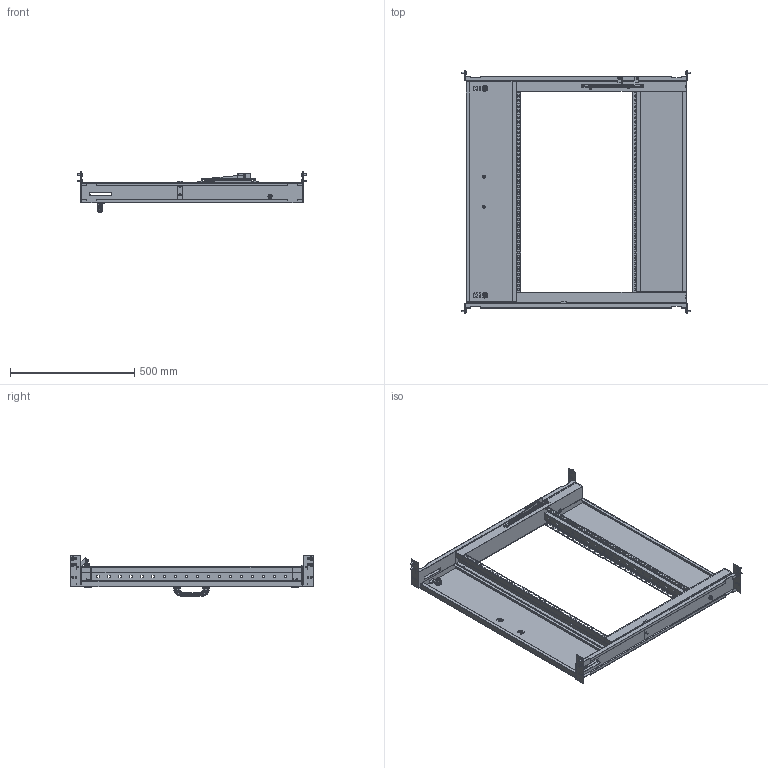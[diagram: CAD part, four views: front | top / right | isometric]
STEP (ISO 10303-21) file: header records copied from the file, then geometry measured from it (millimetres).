
FILE_DESCRIPTION(('Open CASCADE Model'),'2;1');
FILE_NAME('Open CASCADE Shape Model','2025-03-24T10:15:52',('Author'),( 'Open CASCADE'),'Open CASCADE STEP processor 7.8','Open CASCADE 7.8' ,'Unknown');
FILE_SCHEMA(('AUTOMOTIVE_DESIGN { 1 0 10303 214 1 1 1 1 }'));
Length unit declared in the file: millimetre
Products named in the file (35): Compound1; Compound2; Solid1; Solid2; Compound3; Solid3; Solid4; Solid5; Solid6; Solid7; Solid8; Solid9; Solid10; Solid11; Solid12; Solid13; Solid14; Solid15; Solid16; Solid17; Compound4; Solid18; Solid19; Solid20; Solid21; Compound5; Solid22; Solid23; Solid24; Solid25; Solid26; Solid27; Solid28; Solid29; Solid30
Assembly tree (53 placements, depth 3):
  Compound1
    Compound2
      Solid1
      Solid2
    Compound3
      Solid3
      Solid2
    Solid4  x2
    Solid5  x2
    Solid6
    Solid7
    Solid8
    Solid9
    Solid10
    Solid11  x2
    Solid12  x4
    Solid13  x8
    Solid14
    Solid15
    Solid16  x2
    Solid17  x2
    Compound4
      Solid18
      Solid19
    Solid20
    Solid21
    Compound5
      Solid22
      Solid23
      Solid24  x2
      Solid25
      Solid26  x2
      Solid27
      Solid28  x2
      Solid29
      Solid30
Bounding box: 926 x 981.5 x 165 mm (x, y, z)
Volume: 2161821.5 mm3; surface area: 2680026.1 mm2
Topology: 51 solids, 69 shells, 4709 faces, 12894 edges, 8281 vertices
Faces by surface type: plane 2620, cylinder 726, bspline 670, cone 439, torus 176, sphere 78
Entity records: 142524 total; most frequent: CARTESIAN_POINT 51507, ORIENTED_EDGE 20016, DIRECTION 16338, EDGE_CURVE 10178, LINE 6660, VECTOR 6660, VERTEX_POINT 6575, AXIS2_PLACEMENT_3D 4839
